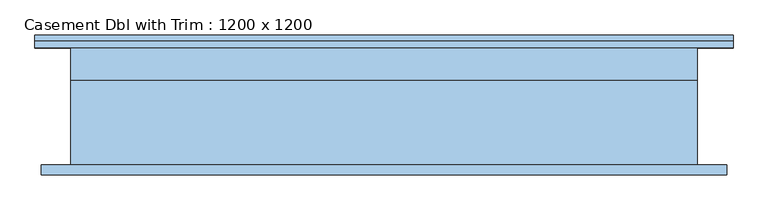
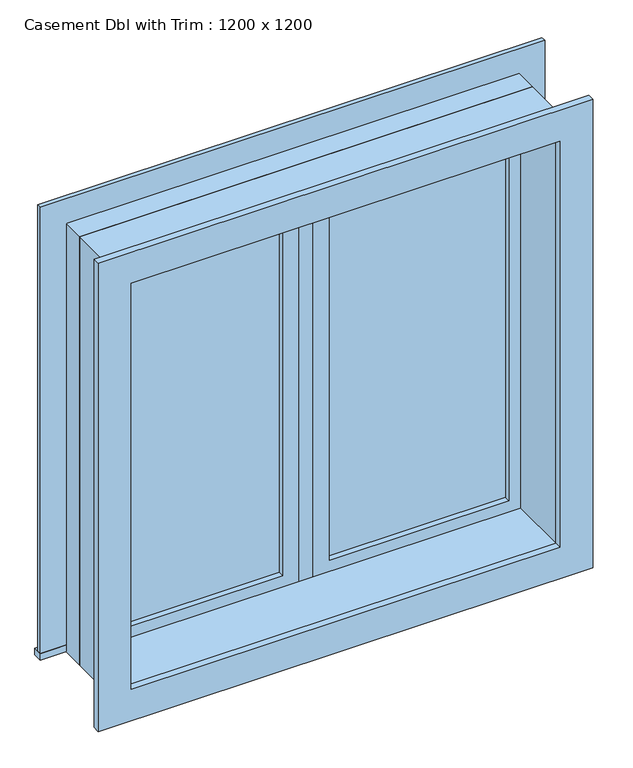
"""IFC4 building model written with IfcOpenShell, lengths in millimetres: window geometry, Casement Dbl with Trim : 1200 x 1200."""

from ifc_helpers import new_model, si_unit, frame, origin, place, context, project, spatial, polyline, outline, extrude, source, transform, mapped, element, save


def casement_dbl_with_trim_1200_x_1200_534dcd48(model_context):
    return source(origin(), model_context, "Body", "SweptSolid", [
        extrude(outline(polyline([(63.5, 98.425), (546.1, 98.425), (546.1, 85.725), (63.5, 85.725), (63.5, 98.425)])), frame((0.0, 0.0, 977.9), z_axis=(0.0, 0.0, 1.0), x_axis=(1.0, 0.0, 0.0)), (0.0, 0.0, 1.0), 1092.2),
        extrude(outline(polyline([(2114.55, 19.05), (933.45, 19.05), (933.45, 590.55), (2114.55, 590.55), (2114.55, 19.05)]), holes=[polyline([(2070.1, 63.5), (2070.1, 546.1), (977.9, 546.1), (977.9, 63.5), (2070.1, 63.5)])]), frame((0.0, 69.85, 0.0), z_axis=(0.0, 1.0, 0.0), x_axis=(0.0, 0.0, 1.0)), (0.0, 0.0, 1.0), 44.45),
        extrude(outline(polyline([(19.05, 69.85), (-19.05, 69.85), (-19.05, 133.35), (19.05, 133.35), (19.05, 69.85)])), frame((0.0, 0.0, 933.45), z_axis=(0.0, 0.0, 1.0), x_axis=(1.0, 0.0, 0.0)), (0.0, 0.0, 1.0), 1181.1),
        extrude(outline(polyline([(-679.45, 158.75), (679.45, 158.75), (679.45, 133.35), (-679.45, 133.35), (-679.45, 158.75)])), frame((0.0, 0.0, 914.4), z_axis=(0.0, 0.0, 1.0), x_axis=(1.0, 0.0, 0.0)), (0.0, 0.0, 1.0), 19.05),
        extrude(outline(polyline([(2114.55, -590.55), (2114.55, 590.55), (933.45, 590.55), (933.45, 679.45), (2203.45, 679.45), (2203.45, -679.45), (933.45, -679.45), (933.45, -590.55), (2114.55, -590.55)])), frame((0.0, 133.35, 0.0), z_axis=(0.0, 1.0, 0.0), x_axis=(0.0, 0.0, 1.0)), (0.0, 0.0, 1.0), 12.7),
        extrude(outline(polyline([(2190.75, 666.75), (2190.75, -666.75), (857.25, -666.75), (857.25, 666.75), (2190.75, 666.75)]), holes=[polyline([(2101.85, 577.85), (946.15, 577.85), (946.15, -577.85), (2101.85, -577.85), (2101.85, 577.85)])]), frame((0.0, -114.3, 0.0), z_axis=(0.0, 1.0, 0.0), x_axis=(0.0, 0.0, 1.0)), (0.0, 0.0, 1.0), 19.05),
        extrude(outline(polyline([(-63.5, 85.725), (-546.1, 85.725), (-546.1, 98.425), (-63.5, 98.425), (-63.5, 85.725)])), frame((0.0, 0.0, 977.9), z_axis=(0.0, 0.0, 1.0), x_axis=(1.0, 0.0, 0.0)), (0.0, 0.0, 1.0), 1092.2),
        extrude(outline(polyline([(2114.55, -590.55), (933.45, -590.55), (933.45, -19.05), (2114.55, -19.05), (2114.55, -590.55)]), holes=[polyline([(2070.1, -546.1), (2070.1, -63.5), (977.9, -63.5), (977.9, -546.1), (2070.1, -546.1)])]), frame((0.0, 69.85, 0.0), z_axis=(0.0, 1.0, 0.0), x_axis=(0.0, 0.0, 1.0)), (0.0, 0.0, 1.0), 44.45),
        extrude(outline(polyline([(2133.6, -609.6), (914.4, -609.6), (914.4, 609.6), (2133.6, 609.6), (2133.6, -609.6)]), holes=[polyline([(2101.85, -577.85), (2101.85, 577.85), (946.15, 577.85), (946.15, -577.85), (2101.85, -577.85)])]), frame((0.0, -95.25, 0.0), z_axis=(0.0, 1.0, 0.0), x_axis=(0.0, 0.0, 1.0)), (0.0, 0.0, 1.0), 165.1),
        extrude(outline(polyline([(2133.6, 609.6), (2133.6, -609.6), (914.4, -609.6), (914.4, 609.6), (2133.6, 609.6)]), holes=[polyline([(2114.55, 590.55), (933.45, 590.55), (933.45, -590.55), (2114.55, -590.55), (2114.55, 590.55)])]), frame((0.0, 69.85, 0.0), z_axis=(0.0, 1.0, 0.0), x_axis=(0.0, 0.0, 1.0)), (0.0, 0.0, 1.0), 63.5),
    ])


if __name__ == "__main__":
    model = new_model("IFC4")
    model_context = context("Model", 3, world=origin())
    ifc_project = project(units=[si_unit("LENGTHUNIT", "METRE", prefix="MILLI")], contexts=[model_context])
    site = spatial("IfcSite", under=ifc_project)
    building = spatial("IfcBuilding", under=site)
    placement = place(None, origin())
    casement_dbl_with_trim_1200_x_1200_shape = casement_dbl_with_trim_1200_x_1200_534dcd48(model_context)
    element("IfcWindow", 1, ObjectType="Casement Dbl with Trim : 1200 x 1200", at=placement, inside=building, context=model_context, shape_type="MappedRepresentation", body=[
        mapped(casement_dbl_with_trim_1200_x_1200_shape, transform((0.0, 0.0, 0.0), x_axis=(1.0, 0.0, 0.0), y_axis=(0.0, 1.0, 0.0), z_axis=(0.0, 0.0, 1.0))),
    ])
    save(model, "model.ifc")
